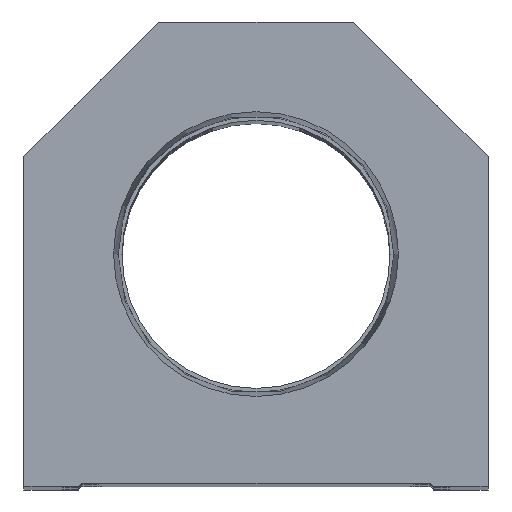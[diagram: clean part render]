
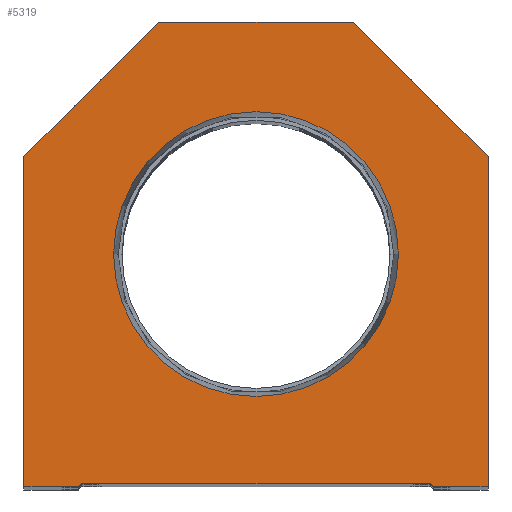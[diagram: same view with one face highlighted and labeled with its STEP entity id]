
A CAD part, top view. The second image highlights one B-rep face of the part: STEP entity #5319.
In plain terms, the highlighted planar face has unit normal (0, 0, 1).
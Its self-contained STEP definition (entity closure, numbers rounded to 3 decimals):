
#125 = AXIS2_PLACEMENT_3D ( 'NONE', #10148, #1840, #8451 ) ;
#545 = FACE_BOUND ( 'NONE', #9596, .T. ) ;
#562 = ORIENTED_EDGE ( 'NONE', *, *, #3684, .T. ) ;
#649 = CARTESIAN_POINT ( 'NONE',  ( 0., 0., 0. ) ) ;
#726 = CARTESIAN_POINT ( 'NONE',  ( -28.6, 0.5, 0. ) ) ;
#933 = DIRECTION ( 'NONE',  ( 1., 0., 0. ) ) ;
#1537 = VECTOR ( 'NONE', #17611, 1000. ) ;
#1840 = DIRECTION ( 'NONE',  ( 0., 0., 1. ) ) ;
#1995 = ORIENTED_EDGE ( 'NONE', *, *, #14541, .T. ) ;
#2298 = CARTESIAN_POINT ( 'NONE',  ( -16., 76.2, 0. ) ) ;
#2361 = ORIENTED_EDGE ( 'NONE', *, *, #7892, .T. ) ;
#2692 = CARTESIAN_POINT ( 'NONE',  ( 0., 38.1, 0. ) ) ;
#2703 = VECTOR ( 'NONE', #11386, 1000. ) ;
#3503 = CARTESIAN_POINT ( 'NONE',  ( -23.374, 38.1, 0. ) ) ;
#3521 = DIRECTION ( 'NONE',  ( 1., 0., 0. ) ) ;
#3606 = CIRCLE ( 'NONE', #16302, 23.374 ) ;
#3681 = CARTESIAN_POINT ( 'NONE',  ( -14.55, 14.55, 0. ) ) ;
#3684 = EDGE_CURVE ( 'NONE', #19320, #17528, #19272, .T. ) ;
#4419 = VECTOR ( 'NONE', #16583, 1000. ) ;
#4491 = DIRECTION ( 'NONE',  ( 0., 0., 1. ) ) ;
#4538 = EDGE_LOOP ( 'NONE', ( #2361, #7306, #13620, #562, #8518, #4658, #19335, #1995, #9962, #11495 ) ) ;
#4658 = ORIENTED_EDGE ( 'NONE', *, *, #14791, .T. ) ;
#4692 = CARTESIAN_POINT ( 'NONE',  ( 14.55, 14.55, 0. ) ) ;
#4732 = CARTESIAN_POINT ( 'NONE',  ( -38.1, 0., 0. ) ) ;
#4886 = VECTOR ( 'NONE', #18143, 1000. ) ;
#4973 = EDGE_CURVE ( 'NONE', #12444, #15666, #17000, .T. ) ;
#5319 = ADVANCED_FACE ( 'NONE', ( #545, #7091 ), #16187, .T. ) ;
#5827 = VECTOR ( 'NONE', #15169, 1000. ) ;
#6470 = CARTESIAN_POINT ( 'NONE',  ( 29.1, 0., 0. ) ) ;
#6508 = VERTEX_POINT ( 'NONE', #9532 ) ;
#7091 = FACE_OUTER_BOUND ( 'NONE', #4538, .T. ) ;
#7306 = ORIENTED_EDGE ( 'NONE', *, *, #9823, .T. ) ;
#7579 = VERTEX_POINT ( 'NONE', #8925 ) ;
#7807 = CARTESIAN_POINT ( 'NONE',  ( 38.1, 0., 0. ) ) ;
#7892 = EDGE_CURVE ( 'NONE', #15138, #7579, #10592, .T. ) ;
#7990 = LINE ( 'NONE', #20795, #1537 ) ;
#8418 = CARTESIAN_POINT ( 'NONE',  ( 16., 76.2, 0. ) ) ;
#8451 = DIRECTION ( 'NONE',  ( 1., 0., 0. ) ) ;
#8518 = ORIENTED_EDGE ( 'NONE', *, *, #16712, .T. ) ;
#8924 = CARTESIAN_POINT ( 'NONE',  ( -38.1, 0., 0. ) ) ;
#8925 = CARTESIAN_POINT ( 'NONE',  ( -29.1, 0., 0. ) ) ;
#9245 = VECTOR ( 'NONE', #13813, 1000. ) ;
#9367 = DIRECTION ( 'NONE',  ( 0., 1., 0. ) ) ;
#9465 = LINE ( 'NONE', #7807, #16960 ) ;
#9532 = CARTESIAN_POINT ( 'NONE',  ( 23.374, 38.1, 0. ) ) ;
#9596 = EDGE_LOOP ( 'NONE', ( #16972, #10075 ) ) ;
#9726 = EDGE_CURVE ( 'NONE', #17523, #18721, #16874, .T. ) ;
#9823 = EDGE_CURVE ( 'NONE', #7579, #11062, #18036, .T. ) ;
#9962 = ORIENTED_EDGE ( 'NONE', *, *, #4973, .T. ) ;
#10075 = ORIENTED_EDGE ( 'NONE', *, *, #20336, .F. ) ;
#10148 = CARTESIAN_POINT ( 'NONE',  ( 0., 38.1, 0. ) ) ;
#10337 = EDGE_CURVE ( 'NONE', #15666, #15138, #12486, .T. ) ;
#10592 = LINE ( 'NONE', #12157, #5827 ) ;
#10888 = DIRECTION ( 'NONE',  ( 1., 0., 0. ) ) ;
#11062 = VERTEX_POINT ( 'NONE', #14442 ) ;
#11098 = CARTESIAN_POINT ( 'NONE',  ( 38.1, 54.1, 0. ) ) ;
#11130 = DIRECTION ( 'NONE',  ( 0., -1., 0. ) ) ;
#11157 = DIRECTION ( 'NONE',  ( 1., 0., 0. ) ) ;
#11316 = VECTOR ( 'NONE', #933, 1000. ) ;
#11386 = DIRECTION ( 'NONE',  ( 0.707, -0.707, 0. ) ) ;
#11495 = ORIENTED_EDGE ( 'NONE', *, *, #10337, .T. ) ;
#12113 = EDGE_CURVE ( 'NONE', #6508, #17993, #12874, .T. ) ;
#12157 = CARTESIAN_POINT ( 'NONE',  ( -28.6, 0., 0. ) ) ;
#12444 = VERTEX_POINT ( 'NONE', #2298 ) ;
#12486 = LINE ( 'NONE', #4732, #12916 ) ;
#12715 = CARTESIAN_POINT ( 'NONE',  ( 28.6, 0., 0. ) ) ;
#12859 = CARTESIAN_POINT ( 'NONE',  ( 28.6, 0.5, 0. ) ) ;
#12874 = CIRCLE ( 'NONE', #125, 23.374 ) ;
#12903 = CARTESIAN_POINT ( 'NONE',  ( 38.1, 0., 0. ) ) ;
#12916 = VECTOR ( 'NONE', #11130, 1000. ) ;
#13294 = CARTESIAN_POINT ( 'NONE',  ( 38.1, 54.1, 0. ) ) ;
#13416 = CARTESIAN_POINT ( 'NONE',  ( -38.1, 54.1, 0. ) ) ;
#13620 = ORIENTED_EDGE ( 'NONE', *, *, #15713, .T. ) ;
#13813 = DIRECTION ( 'NONE',  ( 0.707, 0.707, 0. ) ) ;
#14442 = CARTESIAN_POINT ( 'NONE',  ( -28.6, 0.5, 0. ) ) ;
#14541 = EDGE_CURVE ( 'NONE', #18721, #12444, #7990, .T. ) ;
#14791 = EDGE_CURVE ( 'NONE', #18815, #17523, #9465, .T. ) ;
#15076 = AXIS2_PLACEMENT_3D ( 'NONE', #649, #17976, #3521 ) ;
#15138 = VERTEX_POINT ( 'NONE', #8924 ) ;
#15169 = DIRECTION ( 'NONE',  ( 1., 0., 0. ) ) ;
#15666 = VERTEX_POINT ( 'NONE', #13416 ) ;
#15713 = EDGE_CURVE ( 'NONE', #11062, #19320, #18697, .T. ) ;
#16187 = PLANE ( 'NONE',  #15076 ) ;
#16302 = AXIS2_PLACEMENT_3D ( 'NONE', #2692, #4491, #10888 ) ;
#16583 = DIRECTION ( 'NONE',  ( -0.707, -0.707, 0. ) ) ;
#16712 = EDGE_CURVE ( 'NONE', #17528, #18815, #20715, .T. ) ;
#16874 = LINE ( 'NONE', #13294, #4886 ) ;
#16960 = VECTOR ( 'NONE', #9367, 1000. ) ;
#16972 = ORIENTED_EDGE ( 'NONE', *, *, #12113, .F. ) ;
#17000 = LINE ( 'NONE', #20074, #4419 ) ;
#17523 = VERTEX_POINT ( 'NONE', #11098 ) ;
#17528 = VERTEX_POINT ( 'NONE', #6470 ) ;
#17611 = DIRECTION ( 'NONE',  ( -1., 0., 0. ) ) ;
#17976 = DIRECTION ( 'NONE',  ( 0., 0., 1. ) ) ;
#17993 = VERTEX_POINT ( 'NONE', #3503 ) ;
#18036 = LINE ( 'NONE', #3681, #9245 ) ;
#18143 = DIRECTION ( 'NONE',  ( -0.707, 0.707, 0. ) ) ;
#18697 = LINE ( 'NONE', #726, #11316 ) ;
#18721 = VERTEX_POINT ( 'NONE', #8418 ) ;
#18815 = VERTEX_POINT ( 'NONE', #12903 ) ;
#19272 = LINE ( 'NONE', #4692, #2703 ) ;
#19320 = VERTEX_POINT ( 'NONE', #12859 ) ;
#19335 = ORIENTED_EDGE ( 'NONE', *, *, #9726, .T. ) ;
#19964 = VECTOR ( 'NONE', #11157, 1000. ) ;
#20074 = CARTESIAN_POINT ( 'NONE',  ( -38.1, 54.1, 0. ) ) ;
#20336 = EDGE_CURVE ( 'NONE', #17993, #6508, #3606, .T. ) ;
#20715 = LINE ( 'NONE', #12715, #19964 ) ;
#20795 = CARTESIAN_POINT ( 'NONE',  ( 16., 76.2, 0. ) ) ;
